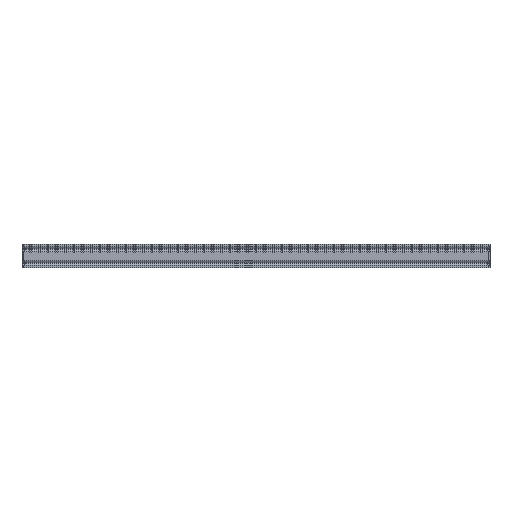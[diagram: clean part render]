
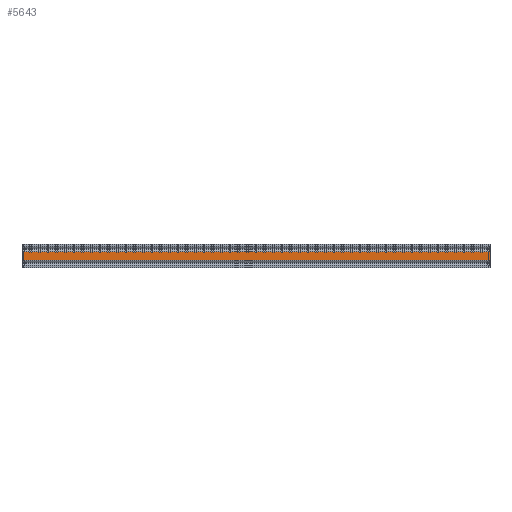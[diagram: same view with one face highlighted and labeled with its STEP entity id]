
A CAD part, front view. The second image highlights one B-rep face of the part: STEP entity #5643.
In plain terms, the highlighted planar face has unit normal (0, -1, 0) as drawn and (0, 0, 1) by its records, which use the part's own axes.
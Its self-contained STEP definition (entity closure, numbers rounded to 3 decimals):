
#597=PLANE('',#6009);
#1313=LINE('',#9067,#2037);
#1314=LINE('',#9071,#2038);
#1315=LINE('',#9073,#2039);
#1316=LINE('',#9075,#2040);
#2037=VECTOR('',#7401,1000.);
#2038=VECTOR('',#7406,1000.);
#2039=VECTOR('',#7407,1000.);
#2040=VECTOR('',#7408,1000.);
#3498=ORIENTED_EDGE('',*,*,#4302,.T.);
#3499=ORIENTED_EDGE('',*,*,#4303,.F.);
#3500=ORIENTED_EDGE('',*,*,#4304,.F.);
#3501=ORIENTED_EDGE('',*,*,#4300,.T.);
#4300=EDGE_CURVE('',#4813,#4812,#1313,.T.);
#4302=EDGE_CURVE('',#4812,#4814,#1314,.T.);
#4303=EDGE_CURVE('',#4815,#4814,#1315,.T.);
#4304=EDGE_CURVE('',#4813,#4815,#1316,.T.);
#4812=VERTEX_POINT('',#9066);
#4813=VERTEX_POINT('',#9068);
#4814=VERTEX_POINT('',#9072);
#4815=VERTEX_POINT('',#9074);
#5107=EDGE_LOOP('',(#3498,#3499,#3500,#3501));
#5367=FACE_BOUND('',#5107,.T.);
#5643=ADVANCED_FACE('',(#5367),#597,.F.);
#6009=AXIS2_PLACEMENT_3D('',#9070,#7404,#7405);
#7401=DIRECTION('',(-1.,0.,0.));
#7404=DIRECTION('',(0.,0.,-1.));
#7405=DIRECTION('',(-1.,0.,0.));
#7406=DIRECTION('',(0.,-1.,0.));
#7407=DIRECTION('',(-1.,0.,0.));
#7408=DIRECTION('',(0.,-1.,0.));
#9066=CARTESIAN_POINT('',(-300.,-9.527,500.));
#9067=CARTESIAN_POINT('',(300.,-9.527,500.));
#9068=CARTESIAN_POINT('',(300.,-9.527,500.));
#9070=CARTESIAN_POINT('',(300.,-9.527,500.));
#9071=CARTESIAN_POINT('',(-300.,-9.527,500.));
#9072=CARTESIAN_POINT('',(-300.,-20.473,500.));
#9073=CARTESIAN_POINT('',(300.,-20.473,500.));
#9074=CARTESIAN_POINT('',(300.,-20.473,500.));
#9075=CARTESIAN_POINT('',(300.,-9.527,500.));
